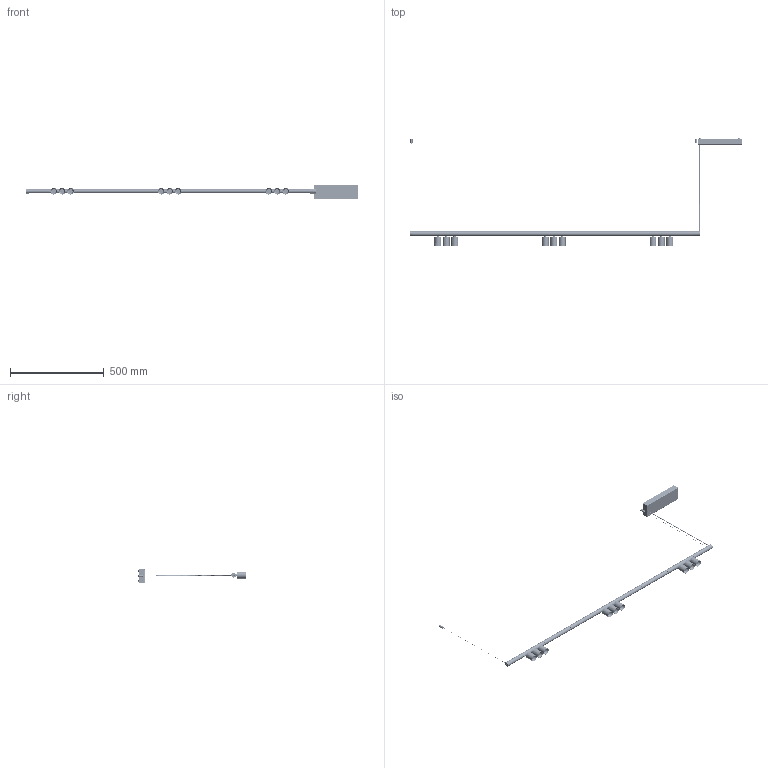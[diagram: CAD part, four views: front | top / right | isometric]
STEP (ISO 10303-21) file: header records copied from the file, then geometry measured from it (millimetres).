
FILE_DESCRIPTION (( 'STEP AP214' ), '1' );
FILE_NAME ('OVAL ROLL 15 surf.STEP', '2024-03-21T09:39:48', ( '' ), ( '' ), 'SwSTEP 2.0', 'SolidWorks 2024', '' );
FILE_SCHEMA (( 'AUTOMOTIVE_DESIGN' ));
Length unit declared in the file: millimetre
Products named in the file (42): Taco cuerpo Micro; COB VS MisterR11; Ensamble Floron Superficie_Colgante; Driver Entity EN1689; Prisionero STEAB M4x4_8; Tuerca Hembra Conector Jack; 04-23DM03-Tope_Adaptador_1.3; Embellecedor Floron Micro_Micro Colgante; Essentra Pasamuro 498025; 04-23DM08-Adaptador_Tapa_ Largo (V1.2)_24V; Remache 3 Cabeza CONICA_remachado; Tija Tiny_Torno; Ensamble MISTER 11 24V_Click; Difusor Ø24_.8; Led VS MISTER 11_Disipador; Tapa Unión-Final V5_V5.1 Colgante Union ; Difusor Negro Oval_0.47m; 04-23DM07-Adaptador_Caja_ Larga_DM01.3; 04-23DM09-Cuerpo Roll 24V; CJ05-ENS_Roll (V1.2)_Proyector; Tapon Tapa_2; Chapa Floron Micro_Techo; Ensamble Tapa + Tope_Con Conector; Ensamble Tensor Micro_Con Cable; Taco Micro_Ø10 M10*5; CJ04-FOCO ROLL; Jack_Scpre; 04-23DM10-Boca Roll 24V_Ajust 1.0; Tapa Micro V5_V5.1; Regulador Cable Ø0.6 (Bereta LT1007.0601); Cable acero_0.5m; Perfil Micro V4_1.5m; Cable_VISUAL Alimentación Micro; Reflector Modulo VS-R11_2; Ensamble Conector Jack Unión_Alimentación Colgante SCPRE; Kgp 100w-24V; Conector Molex Hembra 43020; Imán_12d*5; Difusor Negro Oval_0.1m; OVAL ROLL 15 surf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
Assembly tree (53 placements, depth 5):
  OVAL ROLL 15 surf
    Perfil Micro V4_1.5m
    CJ05-ENS_Roll (V1.2)_Proyector  x3
      04-23DM07-Adaptador_Caja_ Larga_DM01.3
      04-23DM08-Adaptador_Tapa_ Largo (V1.2)_24V
      Conector Molex Hembra 43020
      Driver Entity EN1689
      04-23DM03-Tope_Adaptador_1.3
      CJ04-FOCO ROLL
        04-23DM09-Cuerpo Roll 24V
        Ensamble MISTER 11 24V_Click
          Led VS MISTER 11_Disipador
          Reflector Modulo VS-R11_2
          COB VS MisterR11
          Difusor Ø24_.8
          04-23DM10-Boca Roll 24V_Ajust 1.0
      Tija Tiny_Torno
    Difusor Negro Oval_0.1m  x2
    Difusor Negro Oval_0.47m  x2
    Ensamble Tapa + Tope_Con Conector  x2
      Tapa Micro V5_V5.1
      CUI_DEVICES_PJ-005B_Ø2.5
      Tuerca Hembra Conector Jack
    Ensamble Tensor Micro_Con Cable  x2
      Taco Micro_Ø10 M10*5
      Taco cuerpo Micro
      Regulador Cable Ø0.6 (Bereta LT1007.0601)
      Cable acero_0.5m
    Tapa Unión-Final V5_V5.1 Colgante Union   x2
    Ensamble Floron Superficie_Colgante
      Kgp 100w-24V
      Embellecedor Floron Micro_Micro Colgante
      Chapa Floron Micro_Techo
      Remache 3 Cabeza CONICA_remachado  x2
      Imán_12d*5  x2
      Essentra Pasamuro 498025
    Ensamble Conector Jack Unión_Alimentación Colgante SCPRE
      Cable_VISUAL Alimentación Micro
      Jack_Scpre
      Tapa Alimentación Perfil_SCPRE
      Prisionero STEAB M4x4_8
    Tapon Tapa_2
Bounding box: 1774.44 x 574.57 x 75.27 mm (x, y, z)
Volume: 621421.1 mm3; surface area: 847542.7 mm2
Topology: 116 solids, 118 shells, 18031 faces, 47292 edges, 29725 vertices
Faces by surface type: plane 5597, cylinder 4780, bspline 4455, torus 1601, cone 1155, sphere 443
Entity records: 218132 total; most frequent: CARTESIAN_POINT 102939, ORIENTED_EDGE 25714, DIRECTION 21324, EDGE_CURVE 12857, VERTEX_POINT 8231, AXIS2_PLACEMENT_3D 7156, VECTOR 7012, LINE 7012
